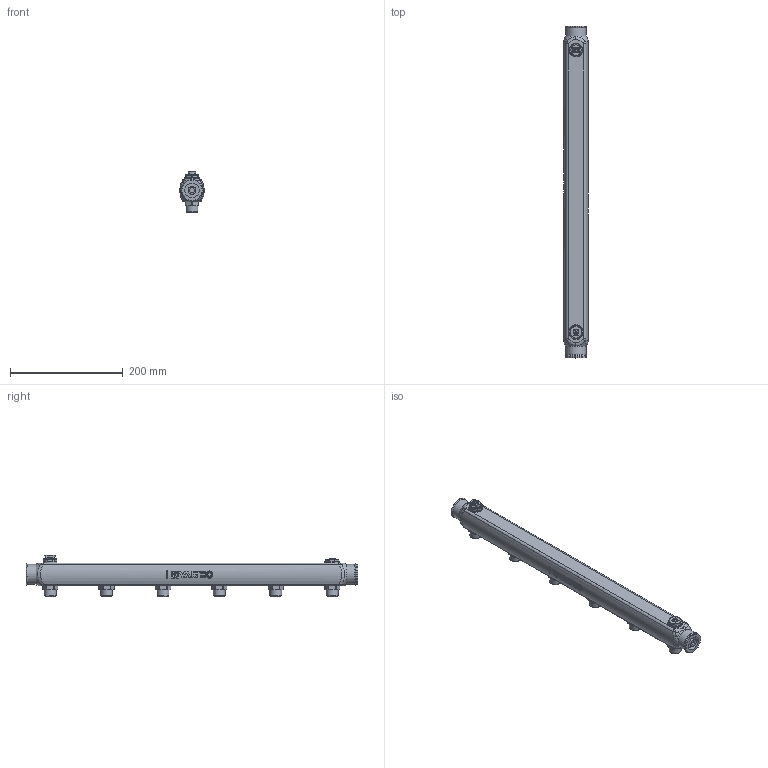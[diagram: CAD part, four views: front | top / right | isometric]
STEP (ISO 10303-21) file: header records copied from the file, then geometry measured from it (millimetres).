
FILE_DESCRIPTION(('STEP AP203'), '1');
FILE_NAME('覆.622621.026.000 捘 - VTc.510.SS.060406', '2024-08-21T11:48:06', ('Boss'), (''), 'C3D Converter', 'C3D Toolkit', '');
FILE_SCHEMA(('CONFIG_CONTROL_DESIGN'));
Length unit declared in the file: millimetre
Products named in the file (1): ВР.622621.026.000 СБ
Bounding box: 43 x 588.5 x 73 mm (x, y, z)
Volume: 184100.8 mm3; surface area: 184642.1 mm2
Topology: 1 solids, 4 shells, 986 faces, 2543 edges, 1644 vertices
Faces by surface type: plane 388, extrusion 230, cylinder 176, cone 131, bspline 52, torus 9
Full cylindrical faces by diameter (mm): 1 x1, 5 x1, 5.3 x1, 10.2 x1, 12 x6, 13 x1, 14 x1, 20.955 x13, 22 x9, 24 x1, 25.5 x1, 26 x1, 28 x1, 30.292 x2, 35.5 x2, 37 x1
Entity records: 57975 total; most frequent: CARTESIAN_POINT 35817, ORIENTED_EDGE 4872, DIRECTION 3735, EDGE_CURVE 2436, VERTEX_POINT 1670, VECTOR 1263, AXIS2_PLACEMENT_3D 1236, EDGE_LOOP 1175
